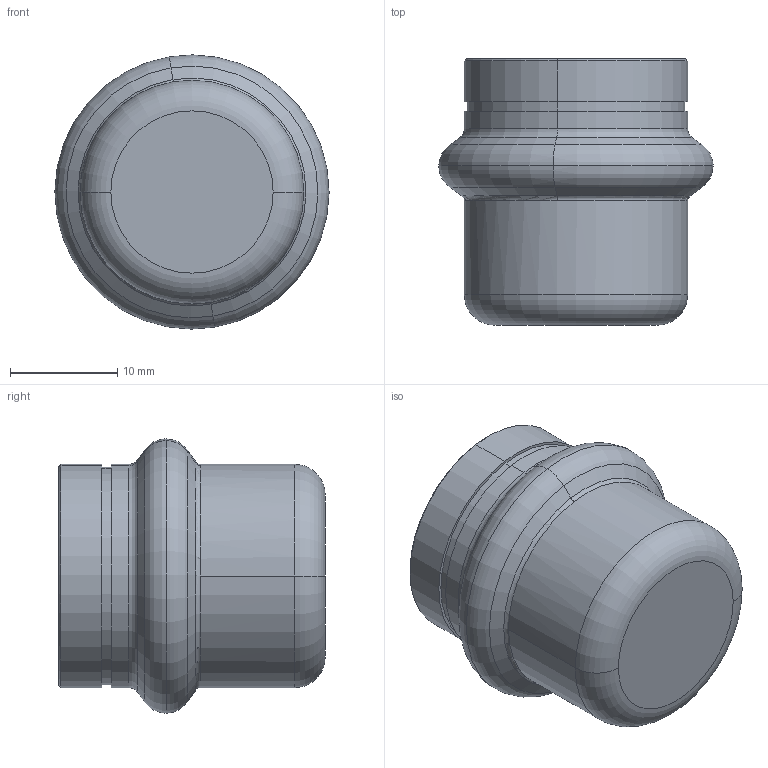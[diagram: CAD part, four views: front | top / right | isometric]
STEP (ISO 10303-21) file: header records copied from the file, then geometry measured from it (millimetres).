
FILE_DESCRIPTION(('CoCreate Modeling STEP Export'),'2;1');
FILE_NAME('8301VW18.stp','2013-03-05T13:27:41',(''),(''),'CoCreate Modeling STEP processor for AP214 (Solid Model)','CoCreate Modeling 17.00A 17-Jun-2010 (C) Parametric Technology GmbH','');
FILE_SCHEMA(('AUTOMOTIVE_DESIGN { 1 0 10303 214 1 1 1 1 }'));
Length unit declared in the file: millimetre
Products named in the file (1): 8301VW18
Bounding box: 25.59 x 24.85 x 25.59 mm (x, y, z)
Volume: 3101.5 mm3; surface area: 3904.6 mm2
Topology: 1 solids, 1 shells, 42 faces, 85 edges, 51 vertices
Faces by surface type: cylinder 16, torus 10, plane 8, cone 8
Entity records: 911 total; most frequent: ORIENTED_EDGE 170, DIRECTION 142, CARTESIAN_POINT 134, EDGE_CURVE 85, AXIS2_PLACEMENT_3D 59, VERTEX_POINT 51, EDGE_LOOP 48, FACE_OUTER_BOUND 42
